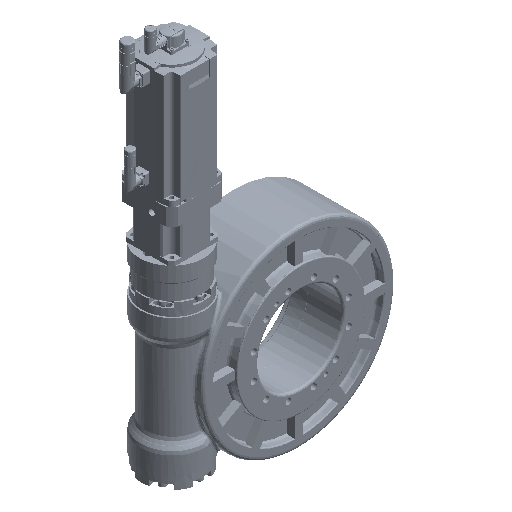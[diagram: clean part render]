
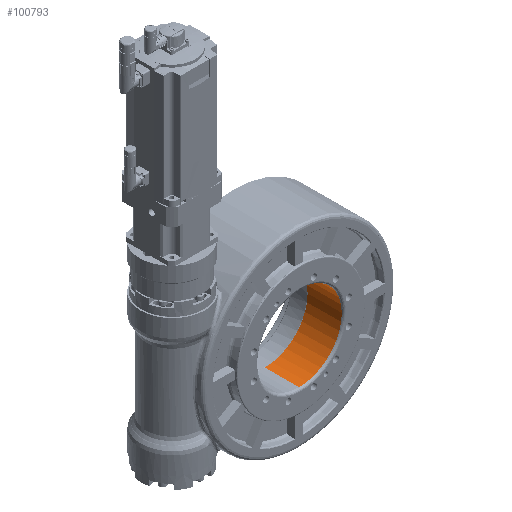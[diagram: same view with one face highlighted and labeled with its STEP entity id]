
A CAD part, isometric view. The second image highlights one B-rep face of the part: STEP entity #100793.
In plain terms, the highlighted cylindrical face has radius 100 mm (diameter 200 mm), a partial arc.
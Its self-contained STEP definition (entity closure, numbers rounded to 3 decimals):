
#3513 = ORIENTED_EDGE ( 'NONE', *, *, #29759, .F. ) ;
#11443 = CARTESIAN_POINT ( 'NONE',  ( -90.887, 7.173, 85.839 ) ) ;
#11522 = CIRCLE ( 'NONE', #194891, 100. ) ;
#11768 = VERTEX_POINT ( 'NONE', #126319 ) ;
#12308 = CYLINDRICAL_SURFACE ( 'NONE', #180942, 100. ) ;
#15509 = VERTEX_POINT ( 'NONE', #100113 ) ;
#18580 = VERTEX_POINT ( 'NONE', #11443 ) ;
#29759 = EDGE_CURVE ( 'NONE', #15509, #165276, #57643, .T. ) ;
#37467 = EDGE_CURVE ( 'NONE', #18580, #148799, #11522, .T. ) ;
#38867 = DIRECTION ( 'NONE',  ( 0., 0., -1. ) ) ;
#51407 = DIRECTION ( 'NONE',  ( 0., 0., -1. ) ) ;
#51679 = CIRCLE ( 'NONE', #170636, 100. ) ;
#52384 = VECTOR ( 'NONE', #75116, 1000. ) ;
#55869 = DIRECTION ( 'NONE',  ( 0., 1., 0. ) ) ;
#57643 = CIRCLE ( 'NONE', #149569, 100. ) ;
#73937 = CARTESIAN_POINT ( 'NONE',  ( -90.887, 7.173, -14.161 ) ) ;
#75116 = DIRECTION ( 'NONE',  ( 0., -1., 0. ) ) ;
#78107 = ORIENTED_EDGE ( 'NONE', *, *, #86756, .F. ) ;
#79217 = FACE_OUTER_BOUND ( 'NONE', #126943, .T. ) ;
#81290 = DIRECTION ( 'NONE',  ( 0., 0., -1. ) ) ;
#82102 = DIRECTION ( 'NONE',  ( 0., 0., -1. ) ) ;
#86756 = EDGE_CURVE ( 'NONE', #18580, #11768, #208006, .T. ) ;
#100113 = CARTESIAN_POINT ( 'NONE',  ( -89.352, -72.827, -114.149 ) ) ;
#100793 = ADVANCED_FACE ( 'NONE', ( #79217 ), #12308, .F. ) ;
#107071 = CARTESIAN_POINT ( 'NONE',  ( -90.887, 7.173, -114.161 ) ) ;
#111927 = CARTESIAN_POINT ( 'NONE',  ( -90.887, -72.827, -14.161 ) ) ;
#126319 = CARTESIAN_POINT ( 'NONE',  ( -90.887, -72.827, 85.839 ) ) ;
#126648 = CARTESIAN_POINT ( 'NONE',  ( -90.887, -72.827, -114.161 ) ) ;
#126943 = EDGE_LOOP ( 'NONE', ( #78107, #190678, #202900, #3513, #187165 ) ) ;
#130000 = DIRECTION ( 'NONE',  ( 0., 1., 0. ) ) ;
#132081 = EDGE_CURVE ( 'NONE', #11768, #15509, #51679, .T. ) ;
#148799 = VERTEX_POINT ( 'NONE', #107071 ) ;
#149569 = AXIS2_PLACEMENT_3D ( 'NONE', #167355, #197135, #51407 ) ;
#158483 = VECTOR ( 'NONE', #195773, 1000. ) ;
#160113 = CARTESIAN_POINT ( 'NONE',  ( -90.887, 7.173, -14.161 ) ) ;
#160175 = CARTESIAN_POINT ( 'NONE',  ( -90.887, 7.173, 85.839 ) ) ;
#165276 = VERTEX_POINT ( 'NONE', #126648 ) ;
#167355 = CARTESIAN_POINT ( 'NONE',  ( -90.887, -72.827, -14.161 ) ) ;
#170636 = AXIS2_PLACEMENT_3D ( 'NONE', #111927, #130000, #82102 ) ;
#180942 = AXIS2_PLACEMENT_3D ( 'NONE', #160113, #206892, #81290 ) ;
#181905 = LINE ( 'NONE', #196794, #158483 ) ;
#187165 = ORIENTED_EDGE ( 'NONE', *, *, #132081, .F. ) ;
#190678 = ORIENTED_EDGE ( 'NONE', *, *, #37467, .T. ) ;
#194891 = AXIS2_PLACEMENT_3D ( 'NONE', #73937, #55869, #38867 ) ;
#195773 = DIRECTION ( 'NONE',  ( 0., -1., 0. ) ) ;
#196794 = CARTESIAN_POINT ( 'NONE',  ( -90.887, 7.173, -114.161 ) ) ;
#197135 = DIRECTION ( 'NONE',  ( 0., 1., 0. ) ) ;
#202664 = EDGE_CURVE ( 'NONE', #148799, #165276, #181905, .T. ) ;
#202900 = ORIENTED_EDGE ( 'NONE', *, *, #202664, .T. ) ;
#206892 = DIRECTION ( 'NONE',  ( 0., -1., 0. ) ) ;
#208006 = LINE ( 'NONE', #160175, #52384 ) ;
